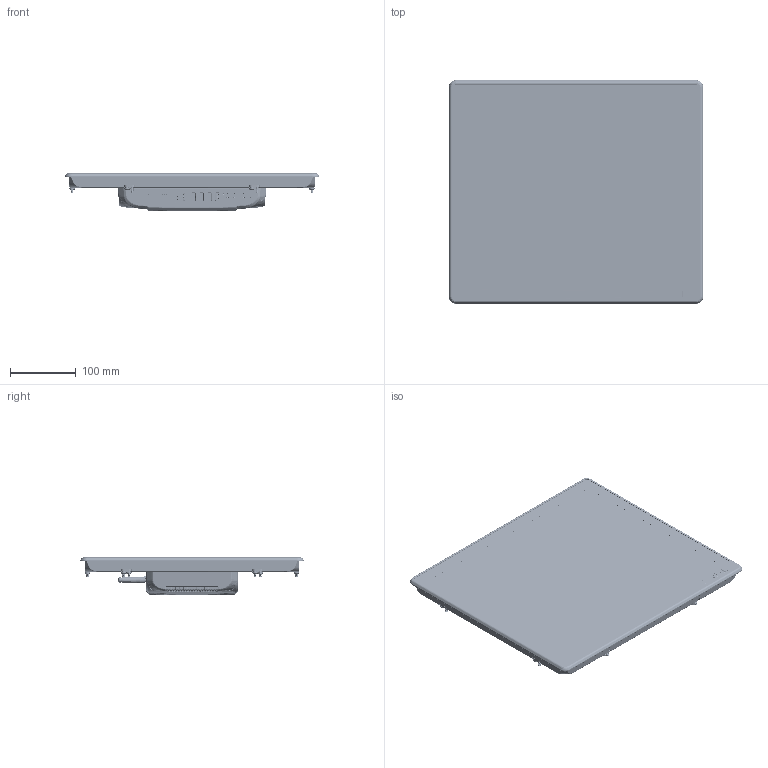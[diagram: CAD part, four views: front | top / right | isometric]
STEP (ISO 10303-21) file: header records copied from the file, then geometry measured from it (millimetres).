
FILE_DESCRIPTION (( 'STEP AP214' ), '1' );
FILE_NAME ('170.STEP', '2024-05-16T05:29:22', ( '' ), ( '' ), 'SwSTEP 2.0', 'SolidWorks 2018', '' );
FILE_SCHEMA (( 'AUTOMOTIVE_DESIGN' ));
Length unit declared in the file: millimetre
Products named in the file (1): 170
Bounding box: 386.78 x 339.78 x 58.46 mm (x, y, z)
Surface area: 827417.2 mm2 (no closed solid volume)
Topology: 0 solids, 825 shells, 14850 faces, 40923 edges, 26862 vertices
Faces by surface type: plane 7538, cylinder 4012, bspline 2147, torus 651, sphere 335, cone 167
Full cylindrical faces by diameter (mm): 0.3 x3, 0.34 x2, 0.5 x18, 0.7 x18, 0.8 x18, 1 x6, 1.2 x1, 1.4 x4, 1.5 x4, 2.2 x2, 2.3 x2, 2.5 x1, 2.6 x4, 3 x1, 3.2 x8, 3.5 x1, 4 x1, 4.2 x12, 4.5 x4, 4.9 x2, 5.9 x1, 6 x2, 7.306 x4, 7.6 x1, 8.1 x1, 8.429 x4
Entity records: 757117 total; most frequent: CARTESIAN_POINT 255811, ORIENTED_EDGE 76116, DIRECTION 56345, EDGE_CURVE 40096, VERTEX_POINT 26738, VECTOR 19443, LINE 19443, AXIS2_PLACEMENT_3D 18451
